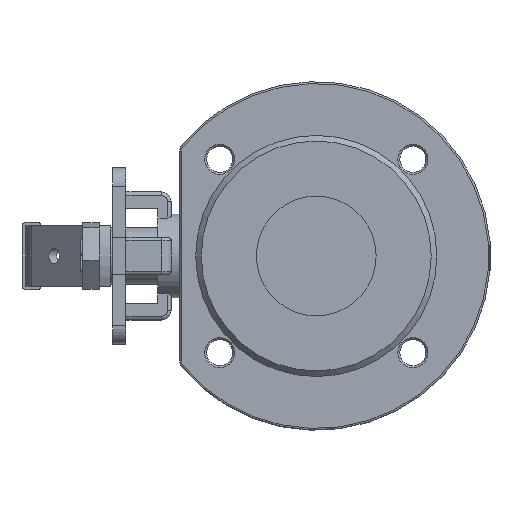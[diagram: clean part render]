
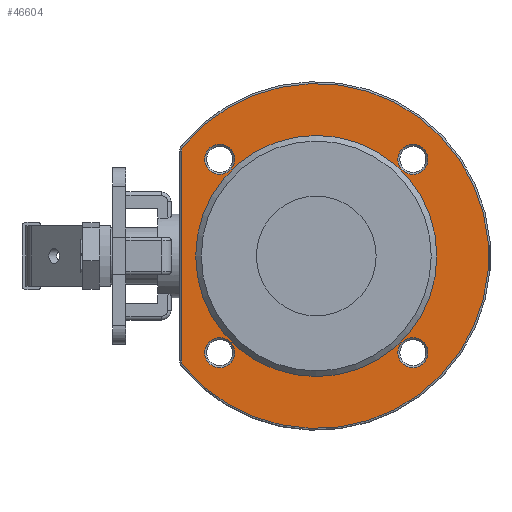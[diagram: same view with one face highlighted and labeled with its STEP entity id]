
A CAD part, left-side view. The second image highlights one B-rep face of the part: STEP entity #46604.
In plain terms, the highlighted planar face has unit normal (-1, 0, 0).
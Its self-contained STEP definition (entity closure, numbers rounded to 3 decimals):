
#46400=CARTESIAN_POINT('',(-52.,71.5,55.678));
#46401=VERTEX_POINT('',#46400);
#46409=CARTESIAN_POINT('',(-52.,70.586,58.223));
#46410=VERTEX_POINT('',#46409);
#46411=CARTESIAN_POINT('',(-52.,67.5,55.678));
#46412=DIRECTION('',(1.0,0.0,0.0));
#46413=DIRECTION('',(0.0,0.941,0.338));
#46414=AXIS2_PLACEMENT_3D('',#46411,#46412,#46413);
#46415=CIRCLE('',#46414,4.0);
#46416=EDGE_CURVE('',#46401,#46410,#46415,.T.);
#46440=CARTESIAN_POINT('',(-52.,70.586,-58.223));
#46441=VERTEX_POINT('',#46440);
#46451=CARTESIAN_POINT('',(-52.,0.0,0.0));
#46452=DIRECTION('',(1.0,0.0,0.0));
#46453=DIRECTION('',(0.0,-1.0,0.0));
#46454=AXIS2_PLACEMENT_3D('',#46451,#46452,#46453);
#46455=CIRCLE('',#46454,91.5);
#46456=EDGE_CURVE('',#46410,#46441,#46455,.T.);
#46466=CARTESIAN_POINT('',(-52.,71.5,-55.678));
#46467=VERTEX_POINT('',#46466);
#46477=CARTESIAN_POINT('',(-52.,67.5,-55.678));
#46478=DIRECTION('',(1.0,0.0,0.0));
#46479=DIRECTION('',(0.0,0.941,-0.338));
#46480=AXIS2_PLACEMENT_3D('',#46477,#46478,#46479);
#46481=CIRCLE('',#46480,4.0);
#46482=EDGE_CURVE('',#46441,#46467,#46481,.T.);
#46493=CARTESIAN_POINT('',(-52.,71.5,-55.678));
#46494=DIRECTION('',(0.0,0.0,1.0));
#46495=VECTOR('',#46494,111.355);
#46496=LINE('',#46493,#46495);
#46497=EDGE_CURVE('',#46467,#46401,#46496,.T.);
#46538=CARTESIAN_POINT('',(-52.,78.25,0.0));
#46539=DIRECTION('',(-1.0,0.0,0.0));
#46540=DIRECTION('',(0.0,0.0,1.0));
#46541=AXIS2_PLACEMENT_3D('',#46538,#46539,#46540);
#46542=PLANE('',#46541);
#46543=ORIENTED_EDGE('',*,*,#46416,.F.);
#46544=ORIENTED_EDGE('',*,*,#46497,.F.);
#46545=ORIENTED_EDGE('',*,*,#46482,.F.);
#46546=ORIENTED_EDGE('',*,*,#46456,.F.);
#46547=EDGE_LOOP('',(#46543,#46544,#46545,#46546));
#46548=FACE_OUTER_BOUND('',#46547,.T.);
#46549=CARTESIAN_POINT('',(-52.,64.,0.0));
#46550=VERTEX_POINT('',#46549);
#46551=CARTESIAN_POINT('',(-52.,0.0,0.0));
#46552=DIRECTION('',(1.0,0.0,0.0));
#46553=DIRECTION('',(0.0,1.0,0.0));
#46554=AXIS2_PLACEMENT_3D('',#46551,#46552,#46553);
#46555=CIRCLE('',#46554,64.);
#46556=EDGE_CURVE('',#46550,#46550,#46555,.T.);
#46557=ORIENTED_EDGE('',*,*,#46556,.T.);
#46558=EDGE_LOOP('',(#46557));
#46559=FACE_BOUND('',#46558,.T.);
#46560=CARTESIAN_POINT('',(-52.,51.265,59.265));
#46561=VERTEX_POINT('',#46560);
#46562=CARTESIAN_POINT('',(-52.,51.265,51.265));
#46563=DIRECTION('',(1.0,0.0,0.0));
#46564=DIRECTION('',(0.0,0.0,1.0));
#46565=AXIS2_PLACEMENT_3D('',#46562,#46563,#46564);
#46566=CIRCLE('',#46565,8.);
#46567=EDGE_CURVE('',#46561,#46561,#46566,.T.);
#46568=ORIENTED_EDGE('',*,*,#46567,.T.);
#46569=EDGE_LOOP('',(#46568));
#46570=FACE_BOUND('',#46569,.T.);
#46571=CARTESIAN_POINT('',(-52.,51.265,-43.265));
#46572=VERTEX_POINT('',#46571);
#46573=CARTESIAN_POINT('',(-52.,51.265,-51.265));
#46574=DIRECTION('',(1.0,0.0,0.0));
#46575=DIRECTION('',(0.0,0.0,1.0));
#46576=AXIS2_PLACEMENT_3D('',#46573,#46574,#46575);
#46577=CIRCLE('',#46576,8.);
#46578=EDGE_CURVE('',#46572,#46572,#46577,.T.);
#46579=ORIENTED_EDGE('',*,*,#46578,.T.);
#46580=EDGE_LOOP('',(#46579));
#46581=FACE_BOUND('',#46580,.T.);
#46582=CARTESIAN_POINT('',(-52.,-51.265,-43.265));
#46583=VERTEX_POINT('',#46582);
#46584=CARTESIAN_POINT('',(-52.,-51.265,-51.265));
#46585=DIRECTION('',(1.0,0.0,0.0));
#46586=DIRECTION('',(0.0,0.0,1.0));
#46587=AXIS2_PLACEMENT_3D('',#46584,#46585,#46586);
#46588=CIRCLE('',#46587,8.);
#46589=EDGE_CURVE('',#46583,#46583,#46588,.T.);
#46590=ORIENTED_EDGE('',*,*,#46589,.T.);
#46591=EDGE_LOOP('',(#46590));
#46592=FACE_BOUND('',#46591,.T.);
#46593=CARTESIAN_POINT('',(-52.,-51.265,59.265));
#46594=VERTEX_POINT('',#46593);
#46595=CARTESIAN_POINT('',(-52.,-51.265,51.265));
#46596=DIRECTION('',(1.0,0.0,0.0));
#46597=DIRECTION('',(0.0,0.0,1.0));
#46598=AXIS2_PLACEMENT_3D('',#46595,#46596,#46597);
#46599=CIRCLE('',#46598,8.);
#46600=EDGE_CURVE('',#46594,#46594,#46599,.T.);
#46601=ORIENTED_EDGE('',*,*,#46600,.T.);
#46602=EDGE_LOOP('',(#46601));
#46603=FACE_BOUND('',#46602,.T.);
#46604=ADVANCED_FACE('',(#46548,#46559,#46570,#46581,#46592,#46603),#46542,.T.);
